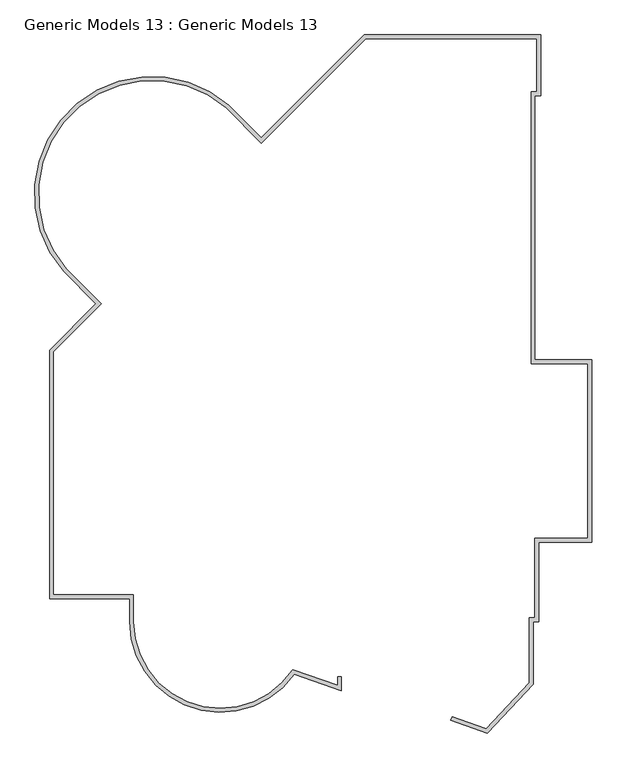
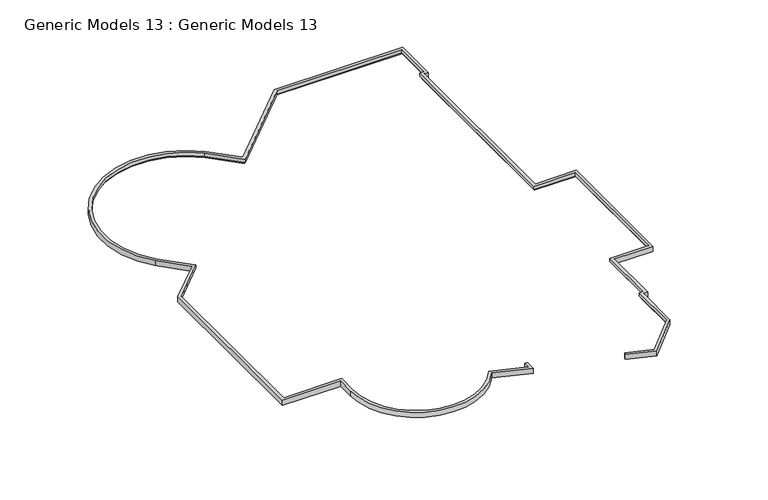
"""IFC4 building model written with IfcOpenShell, lengths in millimetres: proxy geometry, Generic Models 13 : Generic Models 13."""

from ifc_helpers import new_model, si_unit, frame, origin, place, context, project, spatial, polyline, circle_curve, source, transform, mapped, element, save
from ifc_brep_helpers import plane_surface, cylinder_surface, revolved_surface, advanced_brep


def generic_models_13_generic_models_13_cb0aad71(model_context):
    return source(origin(), model_context, "Body", "AdvancedBrep", [
        advanced_brep(
        [(32871.583612, 30367.1733251, 360.0), (32871.583612, 30367.1733251, 240.0), (33800.803748, 29437.9531891, 240.0), (33800.803748, 29437.9531891, 360.0), (32939.6785149, 30440.4997785, 165.0), (32939.6785149, 30440.4997785, 360.0), (33800.6879273, 29579.490366, 360.0), (33800.6879273, 29579.490366, 165.0), (32905.6256956, 30403.8419196, 240.0), (32905.6256956, 30403.8419196, 165.0), (33800.7458377, 29508.7217775, 165.0), (33800.7458377, 29508.7217775, 240.0), (36547.5665685, 32193.7215248, 240.0), (36547.5665685, 32193.7215248, 360.0), (36506.0493092, 32293.7215248, 360.0), (36506.0493092, 32293.7215248, 165.0), (36526.8079388, 32243.7215248, 165.0), (36526.8079388, 32243.7215248, 240.0), (41064.1830624, 32193.7215248, 240.0), (41064.1830624, 32193.7215248, 360.0), (41164.1830624, 32293.7215248, 360.0), (41164.1830624, 32293.7215248, 165.0), (41114.1830624, 32243.7215248, 165.0), (41114.1830624, 32243.7215248, 240.0), (41064.1830624, 30793.7215248, 240.0), (41064.1830624, 30793.7215248, 360.0), (41164.1830624, 30693.7215248, 360.0), (41164.1830624, 30693.7215248, 165.0), (41114.1830624, 30743.7215248, 165.0), (41114.1830624, 30743.7215248, 240.0), (40914.1830624, 30793.7215248, 240.0), (40914.1830624, 30793.7215248, 360.0), (41014.1830624, 30693.7215248, 360.0), (41014.1830624, 30693.7215248, 165.0), (40964.1830624, 30743.7215248, 165.0), (40964.1830624, 30743.7215248, 240.0), (40914.1830624, 23622.4424795, 240.0), (40914.1830624, 23622.4424795, 360.0), (41014.1830624, 23722.4424795, 360.0), (41014.1830624, 23722.4424795, 165.0), (40964.1830624, 23672.4424795, 165.0), (40964.1830624, 23672.4424795, 240.0), (42414.1830624, 23622.4424795, 240.0), (42414.1830624, 23622.4424795, 360.0), (42514.1830624, 23722.4424795, 360.0), (42514.1830624, 23722.4424795, 165.0), (42464.1830624, 23672.4424795, 165.0), (42464.1830624, 23672.4424795, 240.0), (42414.1830624, 19012.4424795, 240.0), (42414.1830624, 19012.4424795, 360.0), (42514.1830624, 18912.4424795, 360.0), (42514.1830624, 18912.4424795, 165.0), (42464.1830624, 18962.4424795, 165.0), (42464.1830624, 18962.4424795, 240.0), (41014.1830624, 19012.4424795, 240.0), (41014.1830624, 19012.4424795, 360.0), (41114.1830624, 18912.4424795, 360.0), (41114.1830624, 18912.4424795, 165.0), (41064.1830624, 18962.4424795, 165.0), (41064.1830624, 18962.4424795, 240.0), (41014.1830624, 16916.0716817, 240.0), (41014.1830624, 16916.0716817, 360.0), (41114.1830624, 16816.0716817, 360.0), (41114.1830624, 16816.0716817, 165.0), (41064.1830624, 16866.0716817, 165.0), (41064.1830624, 16866.0716817, 240.0), (40864.1830624, 16916.0716817, 240.0), (40864.1830624, 16916.0716817, 360.0), (40964.1830624, 16816.0716817, 360.0), (40964.1830624, 16816.0716817, 165.0), (40914.1830624, 16866.0716817, 165.0), (40914.1830624, 16866.0716817, 240.0), (40864.1830624, 15199.8953652, 240.0), (40864.1830624, 15199.8953652, 360.0), (40964.1830624, 15160.1868974, 360.0), (40964.1830624, 15160.1868974, 165.0), (40914.1830624, 15180.0411313, 165.0), (40914.1830624, 15180.0411313, 240.0), (39725.5485437, 13992.2198244, 240.0), (39725.5485437, 13992.2198244, 360.0), (39753.7641675, 13876.3743399, 360.0), (39753.7641675, 13876.3743399, 165.0), (39739.6563556, 13934.2970821, 165.0), (39739.6563556, 13934.2970821, 240.0), (38830.6382148, 14305.7585627, 240.0), (38830.6382148, 14305.7585627, 360.0), (38797.5730987, 14211.3832582, 360.0), (38797.5730987, 14211.3832582, 165.0), (38814.1056567, 14258.5709105, 165.0), (38814.1056567, 14258.5709105, 240.0), (35808.8278827, 15364.473127, 360.0), (35808.8278827, 15364.473127, 240.0), (35808.8278827, 15135.3328576, 240.0), (35808.8278827, 15135.3328576, 360.0), (35908.8278827, 15364.473127, 165.0), (35908.8278827, 15364.473127, 360.0), (35908.8278827, 14994.6662103, 360.0), (35908.8278827, 14994.6662103, 165.0), (35858.8278827, 15364.473127, 240.0), (35858.8278827, 15364.473127, 165.0), (35858.8278827, 15064.9995339, 165.0), (35858.8278827, 15064.9995339, 240.0), (34624.0014722, 15547.5137653, 240.0), (34624.0014722, 15547.5137653, 360.0), (34663.0552415, 15428.0492726, 360.0), (34663.0552415, 15428.0492726, 165.0), (34643.8313065, 15487.6761279, 165.0), (34643.8313065, 15487.6761279, 240.0), (30421.2049406, 16815.5475612, 360.0), (30421.2049406, 16815.5475612, 240.0), (30321.2049419, 16815.4663523, 165.0), (30321.2049419, 16815.4663523, 360.0), (30371.2049409, 16815.5069567, 240.0), (30371.2049409, 16815.5069567, 165.0), (30421.2049406, 17519.5025719, 240.0), (30421.2049406, 17519.5025719, 360.0), (30321.2049406, 17419.5025719, 360.0), (30321.2049406, 17419.5025719, 165.0), (30371.2049406, 17469.5025719, 165.0), (30371.2049406, 17469.5025719, 240.0), (28314.1991743, 17519.5025719, 240.0), (28314.1991743, 17519.5025719, 360.0), (28214.1991743, 17419.5025719, 360.0), (28214.1991743, 17419.5025719, 165.0), (28264.1991743, 17469.5025719, 165.0), (28264.1991743, 17469.5025719, 240.0), (28314.1991743, 23939.3866664, 240.0), (28314.1991743, 23939.3866664, 360.0), (28214.1991743, 23980.7121846, 360.0), (28214.1991743, 23980.7121846, 165.0), (28264.1991743, 23960.0494255, 165.0), (28264.1991743, 23960.0494255, 240.0), (29572.8614755, 25202.1756082, 240.0), (29572.8614755, 25202.1756082, 360.0), (29431.5557506, 25202.0599768, 360.0), (29431.5557506, 25202.0599768, 165.0), (29502.2086131, 25202.1177925, 165.0), (29502.2086131, 25202.1177925, 240.0), (28653.8459592, 26121.1911245, 240.0), (28653.8459592, 26121.1911245, 360.0), (28580.7538315, 26052.8618959, 360.0), (28580.7538315, 26052.8618959, 165.0), (28617.2950096, 26087.031396, 165.0), (28617.2950096, 26087.031396, 240.0)],
        [
            (0, 1),
            (1, 2),
            (2, 3),
            (3, 0),
            (4, 5),
            (5, 6),
            (6, 7),
            (7, 4),
            (8, 9),
            (9, 10),
            (10, 11),
            (11, 8),
            (2, 12),
            (12, 13),
            (13, 3),
            (6, 14),
            (14, 15),
            (15, 7),
            (10, 16),
            (16, 17),
            (17, 11),
            (12, 18),
            (18, 19),
            (19, 13),
            (14, 20),
            (20, 21),
            (21, 15),
            (16, 22),
            (22, 23),
            (23, 17),
            (18, 24),
            (24, 25),
            (25, 19),
            (20, 26),
            (26, 27),
            (27, 21),
            (22, 28),
            (28, 29),
            (29, 23),
            (24, 30),
            (30, 31),
            (31, 25),
            (26, 32),
            (32, 33),
            (33, 27),
            (28, 34),
            (34, 35),
            (35, 29),
            (30, 36),
            (36, 37),
            (37, 31),
            (32, 38),
            (38, 39),
            (39, 33),
            (34, 40),
            (40, 41),
            (41, 35),
            (36, 42),
            (42, 43),
            (43, 37),
            (38, 44),
            (44, 45),
            (45, 39),
            (40, 46),
            (46, 47),
            (47, 41),
            (42, 48),
            (48, 49),
            (49, 43),
            (44, 50),
            (50, 51),
            (51, 45),
            (46, 52),
            (52, 53),
            (53, 47),
            (48, 54),
            (54, 55),
            (55, 49),
            (50, 56),
            (56, 57),
            (57, 51),
            (52, 58),
            (58, 59),
            (59, 53),
            (54, 60),
            (60, 61),
            (61, 55),
            (56, 62),
            (62, 63),
            (63, 57),
            (58, 64),
            (64, 65),
            (65, 59),
            (60, 66),
            (66, 67),
            (67, 61),
            (62, 68),
            (68, 69),
            (69, 63),
            (64, 70),
            (70, 71),
            (71, 65),
            (66, 72),
            (72, 73),
            (73, 67),
            (68, 74),
            (74, 75),
            (75, 69),
            (70, 76),
            (76, 77),
            (77, 71),
            (72, 78),
            (78, 79),
            (79, 73),
            (74, 80),
            (80, 81),
            (81, 75),
            (76, 82),
            (82, 83),
            (83, 77),
            (78, 84),
            (84, 85),
            (85, 79),
            (80, 86),
            (86, 87),
            (87, 81),
            (82, 88),
            (88, 89),
            (89, 83),
            (90, 91),
            (91, 92),
            (92, 93),
            (93, 90),
            (94, 95),
            (95, 96),
            (96, 97),
            (97, 94),
            (98, 99),
            (99, 100),
            (100, 101),
            (101, 98),
            (92, 102),
            (102, 103),
            (103, 93),
            (96, 104),
            (104, 105),
            (105, 97),
            (100, 106),
            (106, 107),
            (107, 101),
            (108, 103, circle_curve(frame((32715.0177061, 16819.2731229, 360.0), z_axis=(0.0, 0.0, 1.0), x_axis=(0.8322306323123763, -0.5544295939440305, 0.0)), 2293.815791)),
            (102, 109, circle_curve(frame((32715.0177061, 16819.2731229, 240.0), z_axis=(0.0, 0.0, -1.0), x_axis=(0.8322306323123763, -0.5544295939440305, 0.0)), 2293.815791)),
            (109, 108),
            (110, 105, circle_curve(frame((32715.0177061, 16819.2731229, 165.0), z_axis=(0.0, 0.0, 1.0), x_axis=(0.8322306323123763, -0.5544295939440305, 0.0)), 2393.815791)),
            (104, 111, circle_curve(frame((32715.0177061, 16819.2731229, 360.0), z_axis=(0.0, 0.0, -1.0), x_axis=(0.8322306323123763, -0.5544295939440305, 0.0)), 2393.815791)),
            (111, 110),
            (112, 107, circle_curve(frame((32715.0177061, 16819.2731229, 240.0), z_axis=(0.0, 0.0, 1.0), x_axis=(0.8322306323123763, -0.5544295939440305, 0.0)), 2343.815791)),
            (106, 113, circle_curve(frame((32715.0177061, 16819.2731229, 165.0), z_axis=(0.0, 0.0, -1.0), x_axis=(0.8322306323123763, -0.5544295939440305, 0.0)), 2343.815791)),
            (113, 112),
            (109, 114),
            (114, 115),
            (115, 108),
            (111, 116),
            (116, 117),
            (117, 110),
            (113, 118),
            (118, 119),
            (119, 112),
            (114, 120),
            (120, 121),
            (121, 115),
            (116, 122),
            (122, 123),
            (123, 117),
            (118, 124),
            (124, 125),
            (125, 119),
            (120, 126),
            (126, 127),
            (127, 121),
            (122, 128),
            (128, 129),
            (129, 123),
            (124, 130),
            (130, 131),
            (131, 125),
            (126, 132),
            (132, 133),
            (133, 127),
            (128, 134),
            (134, 135),
            (135, 129),
            (130, 136),
            (136, 137),
            (137, 131),
            (132, 138),
            (138, 139),
            (139, 133),
            (134, 140),
            (140, 141),
            (141, 135),
            (136, 142),
            (142, 143),
            (143, 137),
            (0, 139, circle_curve(frame((30914.1830624, 28093.7215248, 360.0), z_axis=(0.0, 0.0, 1.0), x_axis=(-0.7534457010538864, -0.6575101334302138, 0.0)), 3000.0)),
            (138, 1, circle_curve(frame((30914.1830624, 28093.7215248, 240.0), z_axis=(0.0, 0.0, -1.0), x_axis=(-0.7534457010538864, -0.6575101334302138, 0.0)), 3000.0)),
            (4, 141, circle_curve(frame((30914.1830624, 28093.7215248, 165.0), z_axis=(0.0, 0.0, 1.0), x_axis=(-0.7534457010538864, -0.6575101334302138, 0.0)), 3100.0)),
            (140, 5, circle_curve(frame((30914.1830624, 28093.7215248, 360.0), z_axis=(0.0, 0.0, -1.0), x_axis=(-0.7534457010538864, -0.6575101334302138, 0.0)), 3100.0)),
            (8, 143, circle_curve(frame((30914.1830624, 28093.7215248, 240.0), z_axis=(0.0, 0.0, 1.0), x_axis=(-0.7534457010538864, -0.6575101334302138, 0.0)), 3050.0)),
            (142, 9, circle_curve(frame((30914.1830624, 28093.7215248, 165.0), z_axis=(0.0, 0.0, -1.0), x_axis=(-0.7534457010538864, -0.6575101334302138, 0.0)), 3050.0)),
            (90, 95),
            (94, 99),
            (98, 91),
            (85, 86),
            (87, 88),
            (89, 84),
        ],
        [
            plane_surface(frame((32871.583612, 30367.1733251, 240.0), z_axis=(-0.7071067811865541, -0.707106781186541, 0.0), x_axis=(0.707106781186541, -0.7071067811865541, 0.0))),
            plane_surface(frame((32939.6785149, 30440.4997785, 360.0), z_axis=(0.7071067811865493, 0.7071067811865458, 0.0), x_axis=(0.7071067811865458, -0.7071067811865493, 0.0))),
            plane_surface(frame((32905.6256956, 30403.8419196, 165.0), z_axis=(-0.707106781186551, -0.7071067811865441, 0.0), x_axis=(0.7071067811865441, -0.707106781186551, 0.0))),
            plane_surface(frame((33800.803748, 29437.9531891, 240.0), z_axis=(0.7082630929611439, -0.7059485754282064, 0.0), x_axis=(0.7059485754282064, 0.7082630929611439, 0.0))),
            plane_surface(frame((33800.6879273, 29579.490366, 360.0), z_axis=(-0.708263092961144, 0.7059485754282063, 0.0), x_axis=(0.7059485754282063, 0.708263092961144, 0.0))),
            plane_surface(frame((33800.7458377, 29508.7217775, 165.0), z_axis=(0.7082630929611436, -0.7059485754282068, 0.0), x_axis=(0.7059485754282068, 0.7082630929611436, 0.0))),
            plane_surface(frame((36547.5665685, 32193.7215248, 240.0), z_axis=(0.0, -1.0, 0.0), x_axis=(1.0, 0.0, 0.0))),
            plane_surface(frame((36506.0493092, 32293.7215248, 360.0), z_axis=(0.0, 1.0, 0.0), x_axis=(1.0, 0.0, 0.0))),
            plane_surface(frame((36526.8079388, 32243.7215248, 165.0), z_axis=(0.0, -1.0, 0.0), x_axis=(1.0, 0.0, 0.0))),
            plane_surface(frame((41064.1830624, 32193.7215248, 240.0), z_axis=(-1.0, 0.0, 0.0), x_axis=(0.0, -1.0, 0.0))),
            plane_surface(frame((41164.1830624, 32293.7215248, 360.0), z_axis=(1.0, 0.0, 0.0), x_axis=(0.0, -1.0, 0.0))),
            plane_surface(frame((41114.1830624, 32243.7215248, 165.0), z_axis=(-1.0, 0.0, 0.0), x_axis=(0.0, -1.0, 0.0))),
            plane_surface(frame((41064.1830624, 30793.7215248, 240.0), z_axis=(0.0, 1.0, 0.0), x_axis=(-1.0, 0.0, 0.0))),
            plane_surface(frame((41164.1830624, 30693.7215248, 360.0), z_axis=(0.0, -1.0, 0.0), x_axis=(-1.0, 0.0, 0.0))),
            plane_surface(frame((41114.1830624, 30743.7215248, 165.0), z_axis=(0.0, 1.0, 0.0), x_axis=(-1.0, 0.0, 0.0))),
            plane_surface(frame((40914.1830624, 30793.7215248, 240.0), z_axis=(-1.0, 0.0, 0.0), x_axis=(0.0, -1.0, 0.0))),
            plane_surface(frame((41014.1830624, 30693.7215248, 360.0), z_axis=(1.0, 0.0, 0.0), x_axis=(0.0, -1.0, 0.0))),
            plane_surface(frame((40964.1830624, 30743.7215248, 165.0), z_axis=(-1.0, 0.0, 0.0), x_axis=(0.0, -1.0, 0.0))),
            plane_surface(frame((40914.1830624, 23622.4424795, 240.0), z_axis=(0.0, -1.0, 0.0), x_axis=(1.0, 0.0, 0.0))),
            plane_surface(frame((41014.1830624, 23722.4424795, 360.0), z_axis=(0.0, 1.0, 0.0), x_axis=(1.0, 0.0, 0.0))),
            plane_surface(frame((40964.1830624, 23672.4424795, 165.0), z_axis=(0.0, -1.0, 0.0), x_axis=(1.0, 0.0, 0.0))),
            plane_surface(frame((42414.1830624, 23622.4424795, 240.0), z_axis=(-1.0, 0.0, 0.0), x_axis=(0.0, -1.0, 0.0))),
            plane_surface(frame((42514.1830624, 23722.4424795, 360.0), z_axis=(1.0, 0.0, 0.0), x_axis=(0.0, -1.0, 0.0))),
            plane_surface(frame((42464.1830624, 23672.4424795, 165.0), z_axis=(-1.0, 0.0, 0.0), x_axis=(0.0, -1.0, 0.0))),
            plane_surface(frame((42414.1830624, 19012.4424795, 240.0), z_axis=(0.0, 1.0, 0.0), x_axis=(-1.0, 0.0, 0.0))),
            plane_surface(frame((42514.1830624, 18912.4424795, 360.0), z_axis=(0.0, -1.0, 0.0), x_axis=(-1.0, 0.0, 0.0))),
            plane_surface(frame((42464.1830624, 18962.4424795, 165.0), z_axis=(0.0, 1.0, 0.0), x_axis=(-1.0, 0.0, 0.0))),
            plane_surface(frame((41014.1830624, 19012.4424795, 240.0), z_axis=(-1.0, 0.0, 0.0), x_axis=(0.0, -1.0, 0.0))),
            plane_surface(frame((41114.1830624, 18912.4424795, 360.0), z_axis=(1.0, 0.0, 0.0), x_axis=(0.0, -1.0, 0.0))),
            plane_surface(frame((41064.1830624, 18962.4424795, 165.0), z_axis=(-1.0, 0.0, 0.0), x_axis=(0.0, -1.0, 0.0))),
            plane_surface(frame((41014.1830624, 16916.0716817, 240.0), z_axis=(0.0, 1.0, 0.0), x_axis=(-1.0, 0.0, 0.0))),
            plane_surface(frame((41114.1830624, 16816.0716817, 360.0), z_axis=(0.0, -1.0, 0.0), x_axis=(-1.0, 0.0, 0.0))),
            plane_surface(frame((41064.1830624, 16866.0716817, 165.0), z_axis=(0.0, 1.0, 0.0), x_axis=(-1.0, 0.0, 0.0))),
            plane_surface(frame((40864.1830624, 16916.0716817, 240.0), z_axis=(-1.0, 0.0, 0.0), x_axis=(0.0, -1.0, 0.0))),
            plane_surface(frame((40964.1830624, 16816.0716817, 360.0), z_axis=(1.0, 0.0, 0.0), x_axis=(0.0, -1.0, 0.0))),
            plane_surface(frame((40914.1830624, 16866.0716817, 165.0), z_axis=(-1.0, 0.0, 0.0), x_axis=(0.0, -1.0, 0.0))),
            plane_surface(frame((40864.1830624, 15199.8953652, 240.0), z_axis=(-0.7275987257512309, 0.6860029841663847, 0.0), x_axis=(-0.6860029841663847, -0.7275987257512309, 0.0))),
            plane_surface(frame((40964.1830624, 15160.1868974, 360.0), z_axis=(0.7275987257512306, -0.6860029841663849, 0.0), x_axis=(-0.6860029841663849, -0.7275987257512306, 0.0))),
            plane_surface(frame((40914.1830624, 15180.0411313, 165.0), z_axis=(-0.7275987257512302, 0.6860029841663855, 0.0), x_axis=(-0.6860029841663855, -0.7275987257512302, 0.0))),
            plane_surface(frame((39725.5485437, 13992.2198244, 240.0), z_axis=(0.3306511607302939, 0.9437530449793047, 0.0), x_axis=(-0.9437530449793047, 0.3306511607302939, 0.0))),
            plane_surface(frame((39753.7641675, 13876.3743399, 360.0), z_axis=(-0.3306511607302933, -0.9437530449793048, 0.0), x_axis=(-0.9437530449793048, 0.3306511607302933, 0.0))),
            plane_surface(frame((39739.6563556, 13934.2970821, 165.0), z_axis=(0.33065116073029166, 0.9437530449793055, 0.0), x_axis=(-0.9437530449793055, 0.33065116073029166, 0.0))),
            plane_surface(frame((35808.8278827, 15364.473127, 240.0), z_axis=(-1.0, 0.0, 0.0), x_axis=(0.0, -1.0, 0.0))),
            plane_surface(frame((35908.8278827, 15364.473127, 360.0), z_axis=(1.0, 0.0, 0.0), x_axis=(0.0, -1.0, 0.0))),
            plane_surface(frame((35858.8278827, 15364.473127, 165.0), z_axis=(-1.0, 0.0, 0.0), x_axis=(0.0, -1.0, 0.0))),
            plane_surface(frame((35808.8278827, 15135.3328576, 240.0), z_axis=(0.3285685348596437, 0.9444801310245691, 0.0), x_axis=(-0.9444801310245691, 0.3285685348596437, 0.0))),
            plane_surface(frame((35908.8278827, 14994.6662103, 360.0), z_axis=(-0.3285685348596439, -0.9444801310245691, 0.0), x_axis=(-0.9444801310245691, 0.3285685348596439, 0.0))),
            plane_surface(frame((35858.8278827, 15064.9995339, 165.0), z_axis=(0.32856853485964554, 0.9444801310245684, 0.0), x_axis=(-0.9444801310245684, 0.32856853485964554, 0.0))),
            revolved_surface(polyline([(34624.00147225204, 15547.513765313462, 240.0), (34624.00147225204, 15547.513765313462, 360.0)]), (32715.0177061, 16819.2731229, 0.0), (0.0, 0.0, -1.0)),
            cylinder_surface(frame((32715.0177061, 16819.2731229, 0.0), z_axis=(0.0, 0.0, -1.0), x_axis=(0.8322306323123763, -0.5544295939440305, 0.0)), 2393.815791),
            revolved_surface(polyline([(34665.613003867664, 15519.792285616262, 165.0), (34665.613003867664, 15519.792285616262, 240.0)]), (32715.0177061, 16819.2731229, 0.0), (0.0, 0.0, -1.0)),
            plane_surface(frame((30421.2049406, 16815.5475612, 240.0), z_axis=(1.0, 0.0, 0.0), x_axis=(0.0, 1.0, 0.0))),
            plane_surface(frame((30321.2049406, 16815.4663523, 360.0), z_axis=(-1.0, 0.0, 0.0), x_axis=(0.0, 1.0, 0.0))),
            plane_surface(frame((30371.2049406, 16815.5069567, 165.0), z_axis=(1.0, 0.0, 0.0), x_axis=(0.0, 1.0, 0.0))),
            plane_surface(frame((30421.2049406, 17519.5025719, 240.0), z_axis=(0.0, 1.0, 0.0), x_axis=(-1.0, 0.0, 0.0))),
            plane_surface(frame((30321.2049406, 17419.5025719, 360.0), z_axis=(0.0, -1.0, 0.0), x_axis=(-1.0, 0.0, 0.0))),
            plane_surface(frame((30371.2049406, 17469.5025719, 165.0), z_axis=(0.0, 1.0, 0.0), x_axis=(-1.0, 0.0, 0.0))),
            plane_surface(frame((28314.1991743, 17519.5025719, 240.0), z_axis=(1.0, 0.0, 0.0), x_axis=(0.0, 1.0, 0.0))),
            plane_surface(frame((28214.1991743, 17419.5025719, 360.0), z_axis=(-1.0, 0.0, 0.0), x_axis=(0.0, 1.0, 0.0))),
            plane_surface(frame((28264.1991743, 17469.5025719, 165.0), z_axis=(1.0, 0.0, 0.0), x_axis=(0.0, 1.0, 0.0))),
            plane_surface(frame((28314.1991743, 23939.3866664, 240.0), z_axis=(0.7082630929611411, -0.7059485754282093, 0.0), x_axis=(0.7059485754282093, 0.7082630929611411, 0.0))),
            plane_surface(frame((28214.1991743, 23980.7121846, 360.0), z_axis=(-0.7082630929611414, 0.7059485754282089, 0.0), x_axis=(0.7059485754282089, 0.7082630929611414, 0.0))),
            plane_surface(frame((28264.1991743, 23960.0494255, 165.0), z_axis=(0.7082630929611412, -0.7059485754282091, 0.0), x_axis=(0.7059485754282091, 0.7082630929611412, 0.0))),
            plane_surface(frame((29572.8614755, 25202.1756082, 240.0), z_axis=(0.7071067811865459, 0.7071067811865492, 0.0), x_axis=(-0.7071067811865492, 0.7071067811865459, 0.0))),
            plane_surface(frame((29431.5557506, 25202.0599768, 360.0), z_axis=(-0.7071067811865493, -0.7071067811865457, 0.0), x_axis=(-0.7071067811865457, 0.7071067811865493, 0.0))),
            plane_surface(frame((29502.2086131, 25202.1177925, 165.0), z_axis=(0.707106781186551, 0.7071067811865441, 0.0), x_axis=(-0.7071067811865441, 0.707106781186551, 0.0))),
            revolved_surface(polyline([(28653.84595923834, 26121.191124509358, 240.0), (28653.84595923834, 26121.191124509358, 360.0)]), (30914.1830624, 28093.7215248, 0.0), (0.0, 0.0, -1.0)),
            cylinder_surface(frame((30914.1830624, 28093.7215248, 0.0), z_axis=(0.0, 0.0, -1.0), x_axis=(-0.7534457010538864, -0.6575101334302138, 0.0)), 3100.0),
            revolved_surface(polyline([(28616.173674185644, 26088.31561783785, 165.0), (28616.173674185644, 26088.31561783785, 240.0)]), (30914.1830624, 28093.7215248, 0.0), (0.0, 0.0, -1.0)),
            plane_surface(frame((35808.8278827, 15364.473127, 0.0), z_axis=(0.0, 1.0, 0.0), x_axis=(0.0, 0.0, 1.0))),
            plane_surface(frame((30914.1830624, 28093.7215248, 360.0), z_axis=(0.0, 0.0, 1.0), x_axis=(-0.7534457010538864, -0.6575101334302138, 0.0))),
            plane_surface(frame((30914.1830624, 28093.7215248, 165.0), z_axis=(0.0, 0.0, -1.0), x_axis=(-0.7534457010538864, -0.6575101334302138, 0.0))),
            plane_surface(frame((30914.1830624, 28093.7215248, 240.0), z_axis=(0.0, 0.0, -1.0), x_axis=(-0.7534457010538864, -0.6575101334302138, 0.0))),
            plane_surface(frame((38830.6382148, 14305.7585627, 0.0), z_axis=(-0.9437530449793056, 0.3306511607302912, 0.0), x_axis=(0.0, 0.0, 1.0))),
        ],
        [
            (0, [[1, 2, 3, 4]]),
            (1, [[5, 6, 7, 8]]),
            (2, [[9, 10, 11, 12]]),
            (3, [[-3, 13, 14, 15]]),
            (4, [[-7, 16, 17, 18]]),
            (5, [[-11, 19, 20, 21]]),
            (6, [[-14, 22, 23, 24]]),
            (7, [[-17, 25, 26, 27]]),
            (8, [[-20, 28, 29, 30]]),
            (9, [[-23, 31, 32, 33]]),
            (10, [[-26, 34, 35, 36]]),
            (11, [[-29, 37, 38, 39]]),
            (12, [[-32, 40, 41, 42]]),
            (13, [[-35, 43, 44, 45]]),
            (14, [[-38, 46, 47, 48]]),
            (15, [[-41, 49, 50, 51]]),
            (16, [[-44, 52, 53, 54]]),
            (17, [[-47, 55, 56, 57]]),
            (18, [[-50, 58, 59, 60]]),
            (19, [[-53, 61, 62, 63]]),
            (20, [[-56, 64, 65, 66]]),
            (21, [[-59, 67, 68, 69]]),
            (22, [[-62, 70, 71, 72]]),
            (23, [[-65, 73, 74, 75]]),
            (24, [[-68, 76, 77, 78]]),
            (25, [[-71, 79, 80, 81]]),
            (26, [[-74, 82, 83, 84]]),
            (27, [[-77, 85, 86, 87]]),
            (28, [[-80, 88, 89, 90]]),
            (29, [[-83, 91, 92, 93]]),
            (30, [[-86, 94, 95, 96]]),
            (31, [[-89, 97, 98, 99]]),
            (32, [[-92, 100, 101, 102]]),
            (33, [[-95, 103, 104, 105]]),
            (34, [[-98, 106, 107, 108]]),
            (35, [[-101, 109, 110, 111]]),
            (36, [[-104, 112, 113, 114]]),
            (37, [[-107, 115, 116, 117]]),
            (38, [[-110, 118, 119, 120]]),
            (39, [[-113, 121, 122, 123]]),
            (40, [[-116, 124, 125, 126]]),
            (41, [[-119, 127, 128, 129]]),
            (42, [[130, 131, 132, 133]]),
            (43, [[134, 135, 136, 137]]),
            (44, [[138, 139, 140, 141]]),
            (45, [[-132, 142, 143, 144]]),
            (46, [[-136, 145, 146, 147]]),
            (47, [[-140, 148, 149, 150]]),
            (48, [[151, -143, 152, 153]]),
            (49, [[154, -146, 155, 156]]),
            (50, [[157, -149, 158, 159]]),
            (51, [[-153, 160, 161, 162]]),
            (52, [[-156, 163, 164, 165]]),
            (53, [[-159, 166, 167, 168]]),
            (54, [[-161, 169, 170, 171]]),
            (55, [[-164, 172, 173, 174]]),
            (56, [[-167, 175, 176, 177]]),
            (57, [[-170, 178, 179, 180]]),
            (58, [[-173, 181, 182, 183]]),
            (59, [[-176, 184, 185, 186]]),
            (60, [[-179, 187, 188, 189]]),
            (61, [[-182, 190, 191, 192]]),
            (62, [[-185, 193, 194, 195]]),
            (63, [[-188, 196, 197, 198]]),
            (64, [[-191, 199, 200, 201]]),
            (65, [[-194, 202, 203, 204]]),
            (66, [[205, -197, 206, -1]]),
            (67, [[207, -200, 208, -5]]),
            (68, [[209, -203, 210, -9]]),
            (69, [[-130, 211, -134, 212, -138, 213]]),
            (70, [[-208, -199, -190, -181, -172, -163, -155, -145, -135, -211, -133, -144, -151, -162, -171, -180, -189, -198, -205, -4, -15, -24, -33, -42, -51, -60, -69, -78, -87, -96, -105, -114, -123, 214, -124, -115, -106, -97, -88, -79, -70, -61, -52, -43, -34, -25, -16, -6]]),
            (71, [[-210, -202, -193, -184, -175, -166, -158, -148, -139, -212, -137, -147, -154, -165, -174, -183, -192, -201, -207, -8, -18, -27, -36, -45, -54, -63, -72, -81, -90, -99, -108, -117, -126, 215, -127, -118, -109, -100, -91, -82, -73, -64, -55, -46, -37, -28, -19, -10]]),
            (72, [[-206, -196, -187, -178, -169, -160, -152, -142, -131, -213, -141, -150, -157, -168, -177, -186, -195, -204, -209, -12, -21, -30, -39, -48, -57, -66, -75, -84, -93, -102, -111, -120, -129, 216, -121, -112, -103, -94, -85, -76, -67, -58, -49, -40, -31, -22, -13, -2]]),
            (73, [[-216, -128, -215, -125, -214, -122]]),
        ],
    ),
    ])


if __name__ == "__main__":
    model = new_model("IFC4")
    model_context = context("Model", 3, world=origin())
    ifc_project = project(units=[si_unit("LENGTHUNIT", "METRE", prefix="MILLI")], contexts=[model_context])
    site = spatial("IfcSite", under=ifc_project)
    building = spatial("IfcBuilding", under=site)
    placement = place(None, origin())
    generic_models_13_generic_models_13_shape = generic_models_13_generic_models_13_cb0aad71(model_context)
    element("IfcBuildingElementProxy", 1, Name="Generic Models 13 : Generic Models 13", ObjectType="Generic Models 13 : Generic Models 13", at=placement, inside=building, context=model_context, shape_type="MappedRepresentation", body=[
        mapped(generic_models_13_generic_models_13_shape, transform((0.0, 0.0, 0.0), x_axis=(1.0, 0.0, 0.0), y_axis=(0.0, 1.0, 0.0), z_axis=(0.0, 0.0, 1.0))),
    ])
    save(model, "model.ifc")
